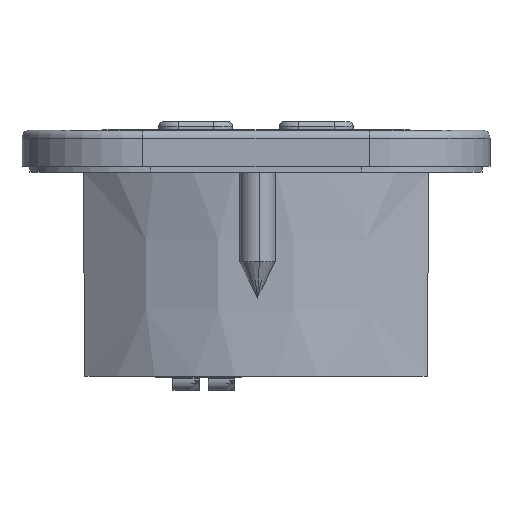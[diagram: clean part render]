
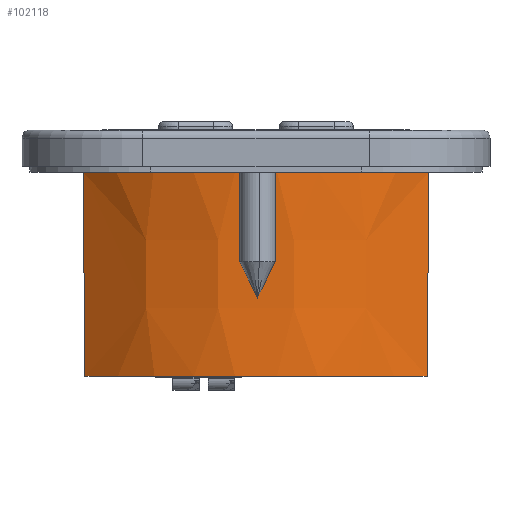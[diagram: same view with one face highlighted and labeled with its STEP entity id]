
A CAD part, front view. The second image highlights one B-rep face of the part: STEP entity #102118.
In plain terms, the highlighted conical face has half-angle 0.5 degrees and reference radius 25 mm.
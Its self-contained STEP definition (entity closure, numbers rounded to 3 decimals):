
#1303 = DIRECTION ( 'NONE',  ( 0., 0., -1. ) ) ;
#3079 = CIRCLE ( 'NONE', #87190, 25.177 ) ;
#5292 = ORIENTED_EDGE ( 'NONE', *, *, #28962, .F. ) ;
#5815 = B_SPLINE_CURVE_WITH_KNOTS ( 'NONE', 3,
 ( #53971, #118982, #17722, #34642 ),
 .UNSPECIFIED., .F., .F.,
 ( 4, 4 ),
 ( 0., 0.02 ),
 .UNSPECIFIED. ) ;
#6539 = AXIS2_PLACEMENT_3D ( 'NONE', #103048, #1303, #111533 ) ;
#15394 = EDGE_CURVE ( 'NONE', #109385, #100259, #41963, .T. ) ;
#15573 = CARTESIAN_POINT ( 'NONE',  ( 17.118, -18.382, -6.767 ) ) ;
#16381 = CARTESIAN_POINT ( 'NONE',  ( 17., -18.33, -20.3 ) ) ;
#16396 = AXIS2_PLACEMENT_3D ( 'NONE', #78179, #77023, #68985 ) ;
#17012 = FACE_OUTER_BOUND ( 'NONE', #82477, .T. ) ;
#17722 = CARTESIAN_POINT ( 'NONE',  ( -17.118, -18.382, -6.767 ) ) ;
#19283 = CIRCLE ( 'NONE', #6539, 25. ) ;
#24406 = CARTESIAN_POINT ( 'NONE',  ( 17.059, -18.356, -13.533 ) ) ;
#24667 = CARTESIAN_POINT ( 'NONE',  ( 17., -18.33, -20.3 ) ) ;
#24787 = ORIENTED_EDGE ( 'NONE', *, *, #15394, .T. ) ;
#26459 = DIRECTION ( 'NONE',  ( -1., 0., 0. ) ) ;
#27836 = ORIENTED_EDGE ( 'NONE', *, *, #53380, .T. ) ;
#28962 = EDGE_CURVE ( 'NONE', #53164, #53072, #5815, .T. ) ;
#34642 = CARTESIAN_POINT ( 'NONE',  ( -17.177, -18.407, 0. ) ) ;
#35763 = CARTESIAN_POINT ( 'NONE',  ( 17.177, -18.407, 0. ) ) ;
#41963 = B_SPLINE_CURVE_WITH_KNOTS ( 'NONE', 3,
 ( #16381, #24406, #15573, #88756 ),
 .UNSPECIFIED., .F., .F.,
 ( 4, 4 ),
 ( 0., 0.02 ),
 .UNSPECIFIED. ) ;
#45011 = CARTESIAN_POINT ( 'NONE',  ( 0., 0., 0. ) ) ;
#51576 = CONICAL_SURFACE ( 'NONE', #16396, 25., 0.009 ) ;
#53072 = VERTEX_POINT ( 'NONE', #108377 ) ;
#53164 = VERTEX_POINT ( 'NONE', #79843 ) ;
#53380 = EDGE_CURVE ( 'NONE', #100259, #53072, #3079, .T. ) ;
#53971 = CARTESIAN_POINT ( 'NONE',  ( -17., -18.33, -20.3 ) ) ;
#54679 = DIRECTION ( 'NONE',  ( 0., 0., -1. ) ) ;
#68985 = DIRECTION ( 'NONE',  ( -1., 0., 0. ) ) ;
#77023 = DIRECTION ( 'NONE',  ( 0., 0., 1. ) ) ;
#78179 = CARTESIAN_POINT ( 'NONE',  ( 0., 0., -20.3 ) ) ;
#79843 = CARTESIAN_POINT ( 'NONE',  ( -17., -18.33, -20.3 ) ) ;
#82477 = EDGE_LOOP ( 'NONE', ( #27836, #5292, #86261, #24787 ) ) ;
#86261 = ORIENTED_EDGE ( 'NONE', *, *, #114592, .F. ) ;
#87190 = AXIS2_PLACEMENT_3D ( 'NONE', #45011, #54679, #26459 ) ;
#88756 = CARTESIAN_POINT ( 'NONE',  ( 17.177, -18.407, 0. ) ) ;
#100259 = VERTEX_POINT ( 'NONE', #35763 ) ;
#102118 = ADVANCED_FACE ( 'NONE', ( #17012 ), #51576, .T. ) ;
#103048 = CARTESIAN_POINT ( 'NONE',  ( 0., 0., -20.3 ) ) ;
#108377 = CARTESIAN_POINT ( 'NONE',  ( -17.177, -18.407, 0. ) ) ;
#109385 = VERTEX_POINT ( 'NONE', #24667 ) ;
#111533 = DIRECTION ( 'NONE',  ( -1., 0., 0. ) ) ;
#114592 = EDGE_CURVE ( 'NONE', #109385, #53164, #19283, .T. ) ;
#118982 = CARTESIAN_POINT ( 'NONE',  ( -17.059, -18.356, -13.533 ) ) ;
